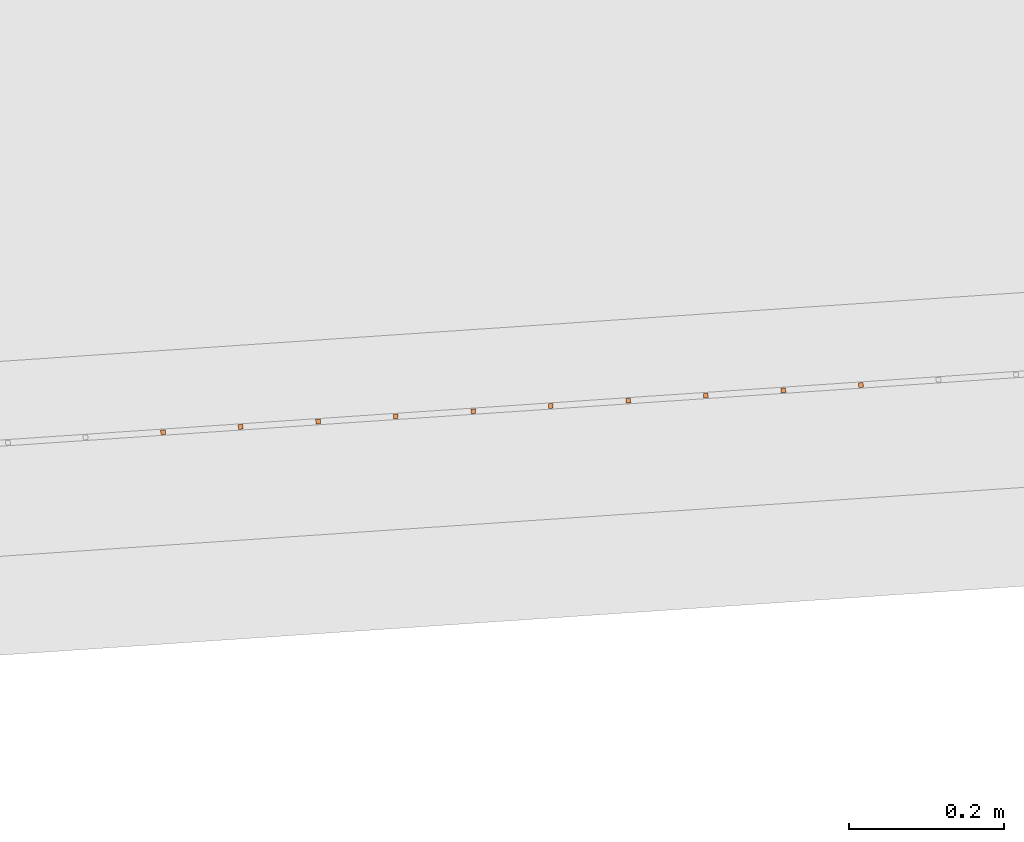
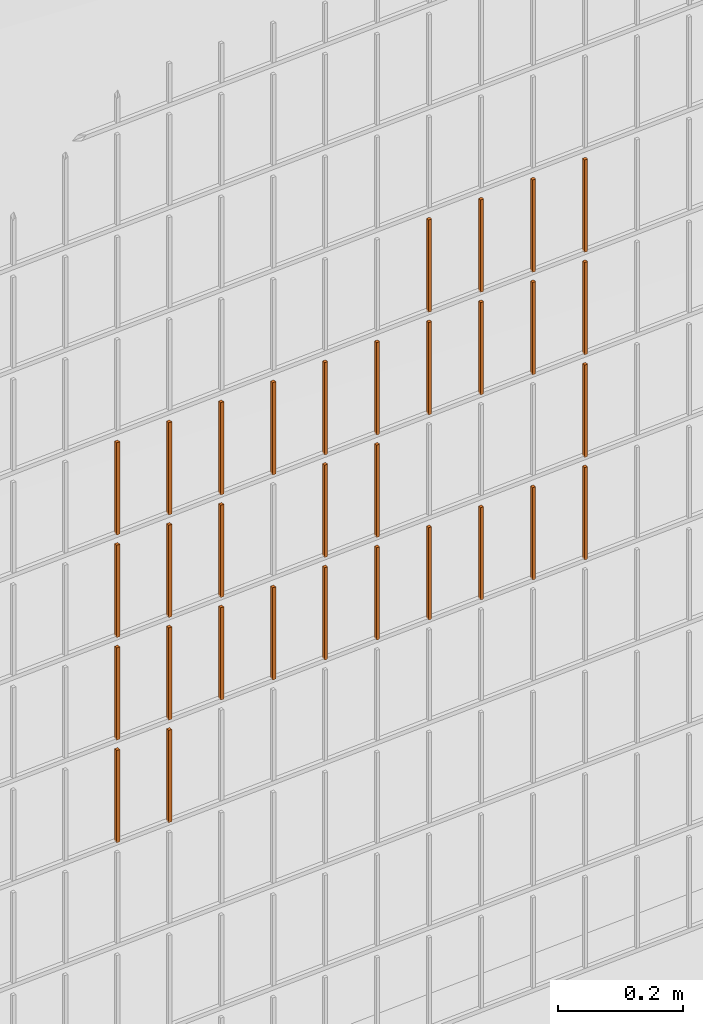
# One storey, part 347 of 1809: 32 proxies, 1 element without a shape of its own.
"""IFC2X3 building model written with IfcOpenShell, lengths in millimetres."""

import ifcopenshell
import ifcopenshell.guid

model = None  # the IFC model being written
_history = None  # IfcOwnerHistory: only IFC2X3 demands one
_inside = {}  # id of a spatial element -> (the spatial element, [elements in it])
_under = {}  # id of a project, library or spatial element -> (it, [spatial elements below it])
_declared = {}  # id of a project -> (the project, [libraries it declares])
_typed = {}  # id of a type object -> (the type object, [elements of that type])
_made_of = {}  # id of a material, layer set ... -> (it, [elements and type objects made of it])


def new_model(schema):
    """Start an empty IFC model of exactly this schema.

    Asked for "IFC4X3", IfcOpenShell would pick the latest addendum, in which some entities
    have other attributes; the version numbers below select the first issue.
    IFC2X3 requires an IfcOwnerHistory on every rooted entity: one is made here for all.
    """
    global model, _history
    if schema == "IFC4X3":
        model = ifcopenshell.file(schema_version=(4, 3, 0, 0))
    else:
        model = ifcopenshell.file(schema=schema)
    _inside.clear()
    _under.clear()
    _declared.clear()
    _typed.clear()
    _made_of.clear()
    _history = None
    if model.schema == "IFC2X3":
        org = make("IfcOrganization", Name="unknown")
        user = make(
            "IfcPersonAndOrganization",
            ThePerson=make("IfcPerson", FamilyName="unknown"),
            TheOrganization=org,
        )
        app = make(
            "IfcApplication",
            ApplicationDeveloper=org,
            Version="unknown",
            ApplicationFullName="unknown",
            ApplicationIdentifier="unknown",
        )
        _history = make(
            "IfcOwnerHistory",
            OwningUser=user,
            OwningApplication=app,
            ChangeAction="ADDED",
            CreationDate=0,
        )
    return model


def make(cls, **values):
    """One entity of the class cls with the attributes given. An attribute that is None is left unset."""
    return model.create_entity(
        cls, **{name: value for name, value in values.items() if value is not None}
    )


def entity(cls, *values):
    """Any entity or typed value of the class cls, its attributes in the order of the schema. None: left unset."""
    e = model.create_entity(cls)
    for i, value in enumerate(values):
        if value is not None:
            e[i] = value
    return e


def rooted(cls, **values):
    """An entity with a GlobalId (a new one), such as an element, a storey or a relation."""
    return make(cls, GlobalId=ifcopenshell.guid.new(), OwnerHistory=_history, **values)


def si_unit(unit_type, name, prefix=None):
    """IfcSIUnit, for example si_unit("LENGTHUNIT", "METRE", prefix="MILLI")."""
    return make("IfcSIUnit", UnitType=unit_type, Prefix=prefix, Name=name)


def converted_unit(unit_type, name, factor, base, dimensions=None, offset=None):
    """IfcConversionBasedUnit, such as the inch: factor (a typed value) times the base unit."""
    return make(
        "IfcConversionBasedUnit"
        if offset is None
        else "IfcConversionBasedUnitWithOffset",
        ConversionOffset=offset,
        Dimensions=None
        if dimensions is None
        else entity("IfcDimensionalExponents", *dimensions),
        UnitType=unit_type,
        Name=name,
        ConversionFactor=make(
            "IfcMeasureWithUnit", ValueComponent=factor, UnitComponent=base
        ),
    )


def derived_unit(unit_type, elements):
    """IfcDerivedUnit: a product of units, each with its exponent."""
    return make(
        "IfcDerivedUnit",
        Elements=[
            make("IfcDerivedUnitElement", Unit=unit, Exponent=power)
            for unit, power in elements
        ],
        UnitType=unit_type,
    )


def money_unit(currency):
    """IfcMonetaryUnit."""
    return make("IfcMonetaryUnit", Currency=currency)


def assignment(units):
    """IfcUnitAssignment: the units of a project."""
    return None if units is None else make("IfcUnitAssignment", Units=units)


def point(xyz):
    """IfcCartesianPoint."""
    return None if xyz is None else make("IfcCartesianPoint", Coordinates=xyz)


def direction(xyz):
    """IfcDirection."""
    return None if xyz is None else make("IfcDirection", DirectionRatios=xyz)


def frame(location, z_axis=None, x_axis=None):
    """IfcAxis2Placement3D, a coordinate frame: its origin and axes. An axis left out is left unset."""
    return make(
        "IfcAxis2Placement3D",
        Location=point(location),
        Axis=direction(z_axis),
        RefDirection=direction(x_axis),
    )


def origin_with_axes():
    """The frame at (0, 0, 0) with the z axis (0, 0, 1) and the x axis (1, 0, 0) written out."""
    return frame((0.0, 0.0, 0.0), z_axis=(0.0, 0.0, 1.0), x_axis=(1.0, 0.0, 0.0))


def place(relative_to, where):
    """IfcLocalPlacement: puts the frame where relative to a parent placement (None: the world)."""
    return make(
        "IfcLocalPlacement", PlacementRelTo=relative_to, RelativePlacement=where
    )


def context(
    kind, dimensions, precision=None, world=None, true_north=None, identifier=None
):
    """IfcGeometricRepresentationContext, for example the 3D "Model" context."""
    return make(
        "IfcGeometricRepresentationContext",
        ContextIdentifier=identifier,
        ContextType=kind,
        CoordinateSpaceDimension=dimensions,
        Precision=precision,
        WorldCoordinateSystem=world,
        TrueNorth=true_north,
    )


def subcontext(parent, identifier, kind, view, scale=None):
    """IfcGeometricRepresentationSubContext, for example "Body" below "Model"."""
    return make(
        "IfcGeometricRepresentationSubContext",
        ContextIdentifier=identifier,
        ContextType=kind,
        ParentContext=parent,
        TargetScale=scale,
        TargetView=view,
    )


def project(units=None, contexts=None):
    """IfcProject with its units and contexts."""
    return rooted(
        "IfcProject",
        Name="project",
        RepresentationContexts=contexts,
        UnitsInContext=assignment(units),
    )


def spatial(cls, under=None, at=None, **own):
    """A site, building, storey or space (cls), placed at a placement, below another one or the project."""
    s = rooted(cls, ObjectPlacement=at, **own)
    if under is not None:
        _under.setdefault(under.id(), (under, []))[1].append(s)
    return s


def faces_of(points, faces, orient=None, outer=None):
    """IfcFace entities. A face is a list of loops; a loop is a list of indices into points, from 0.

    orient and outer hold one flag for each loop. By default every Orientation is true, the
    first loop of a face is its IfcFaceOuterBound and the others are IfcFaceBound.
    """
    made = []
    for i, loops in enumerate(faces):
        bounds = []
        for j, loop in enumerate(loops):
            is_outer = j == 0 if outer is None else outer[i][j]
            bounds.append(
                make(
                    "IfcFaceOuterBound" if is_outer else "IfcFaceBound",
                    Bound=make("IfcPolyLoop", Polygon=[points[k] for k in loop]),
                    Orientation=True if orient is None else orient[i][j],
                )
            )
        made.append(make("IfcFace", Bounds=bounds))
    return made


def faceted_brep(points, faces, orient=None, outer=None, voids=None):
    """IfcFacetedBrep: a solid bounded by flat faces; with voids (closed shells), ...WithVoids."""
    shared = [point(p) for p in points]
    hull = make("IfcClosedShell", CfsFaces=faces_of(shared, faces, orient, outer))
    if voids is None:
        return make("IfcFacetedBrep", Outer=hull)
    return make(
        "IfcFacetedBrepWithVoids",
        Outer=hull,
        Voids=[
            make(cls, CfsFaces=faces_of(shared, fs, o, b)) for cls, fs, o, b in voids
        ],
    )


def shape(context_of_items, identifier, shape_type, items):
    """IfcShapeRepresentation: the items that make up one representation, for example the "Body"."""
    return make(
        "IfcShapeRepresentation",
        ContextOfItems=context_of_items,
        RepresentationIdentifier=identifier,
        RepresentationType=shape_type,
        Items=items,
    )


def source(mapping_origin, context_of_items, identifier, shape_type, items):
    """IfcRepresentationMap: a shape defined once, which mapped items show again and again."""
    return make(
        "IfcRepresentationMap",
        MappingOrigin=mapping_origin,
        MappedRepresentation=shape(context_of_items, identifier, shape_type, items),
    )


def transform(
    local_origin,
    x_axis=None,
    y_axis=None,
    z_axis=None,
    scale=None,
    scale2=None,
    scale3=None,
    uniform=True,
):
    """IfcCartesianTransformationOperator3D, or its non-uniform kind. x_axis, y_axis, z_axis: its Axis1, 2, 3."""
    if uniform:
        return make(
            "IfcCartesianTransformationOperator3D",
            Axis1=direction(x_axis),
            Axis2=direction(y_axis),
            LocalOrigin=point(local_origin),
            Scale=scale,
            Axis3=direction(z_axis),
        )
    return make(
        "IfcCartesianTransformationOperator3DnonUniform",
        Axis1=direction(x_axis),
        Axis2=direction(y_axis),
        LocalOrigin=point(local_origin),
        Scale=scale,
        Axis3=direction(z_axis),
        Scale2=scale2,
        Scale3=scale3,
    )


def mapped(mapping_source, mapping_target):
    """IfcMappedItem: shows the shape of a source again, moved by a transform."""
    return make(
        "IfcMappedItem", MappingSource=mapping_source, MappingTarget=mapping_target
    )


def material(Name=None, Category=None):
    """IfcMaterial."""
    return make("IfcMaterial", Name=Name, Category=Category)


def made_of(thing, what):
    """Note that an element or type object is made of a material, layer set ...; save() writes the relation."""
    if what is not None:
        _made_of.setdefault(what.id(), (what, []))[1].append(thing)
    return thing


def type_object(cls, material=None, **own):
    """A type object (cls), such as IfcWallType, which elements share."""
    return made_of(rooted(cls, **own), material)


def element(
    cls,
    number,
    at=None,
    inside=None,
    cuts=None,
    type_object=None,
    material=None,
    context=None,
    identifier="Body",
    shape_type=None,
    held_by="IfcProductDefinitionShape",
    body=None,
    shapes=None,
    **own,
):
    """One element of the class cls, such as IfcWall. Its Tag is "e" and its number.

    at: its placement. inside: the storey or other place that contains it. cuts: it is an
    opening in that element (IfcRelVoidsElement). A single representation is given by context,
    identifier, shape_type and body (its items); several are given by shapes. held_by: the class
    of the entity that holds the representations. save() writes the other relations.
    """
    e = rooted(cls, Tag="e%d" % number, ObjectPlacement=at, **own)
    if body is not None:
        shapes = [shape(context, identifier, shape_type, body)]
    if shapes is not None:
        e.Representation = make(held_by, Representations=shapes)
    if inside is not None:
        _inside.setdefault(inside.id(), (inside, []))[1].append(e)
    if cuts is not None:
        rooted(
            "IfcRelVoidsElement", RelatingBuildingElement=cuts, RelatedOpeningElement=e
        )
    if type_object is not None:
        _typed.setdefault(type_object.id(), (type_object, []))[1].append(e)
    return made_of(e, material)


def aggregate(whole, parts):
    """IfcRelAggregates: a whole, such as a stair, and the parts it consists of."""
    return rooted("IfcRelAggregates", RelatingObject=whole, RelatedObjects=parts)


def save(model, path):
    """Write the relations noted so far, then the file.

    IfcRelAggregates (storeys below a building ...), IfcRelContainedInSpatialStructure (elements
    in a storey), IfcRelDefinesByType, IfcRelAssociatesMaterial and IfcRelDeclares: one each for
    every whole, place, type object, material and project.
    """
    for whole, parts in _under.values():
        aggregate(whole, parts)
    for where, things in _inside.values():
        rooted(
            "IfcRelContainedInSpatialStructure",
            RelatedElements=things,
            RelatingStructure=where,
        )
    for kind, things in _typed.values():
        rooted("IfcRelDefinesByType", RelatedObjects=things, RelatingType=kind)
    for what, things in _made_of.values():
        rooted("IfcRelAssociatesMaterial", RelatedObjects=things, RelatingMaterial=what)
    for by, libraries in _declared.values():
        rooted("IfcRelDeclares", RelatingContext=by, RelatedDefinitions=libraries)
    model.write(path)


model = new_model("IFC2X3")

# Units and contexts
model_context = context("Model", 3, precision=0.01, world=origin_with_axes(), true_north=direction((0.0, 1.0)))
body_context = subcontext(model_context, "Body", "Model", "MODEL_VIEW")
ifc_project = project(units=[si_unit("LENGTHUNIT", "METRE", prefix="MILLI"), si_unit("AREAUNIT", "SQUARE_METRE"), si_unit("VOLUMEUNIT", "CUBIC_METRE"), converted_unit("PLANEANGLEUNIT", "DEGREE", entity("IfcPlaneAngleMeasure", 0.0174532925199), si_unit("PLANEANGLEUNIT", "RADIAN"), dimensions=[0, 0, 0, 0, 0, 0, 0]), si_unit("SOLIDANGLEUNIT", "STERADIAN"), money_unit("EUR"), converted_unit("TIMEUNIT", "Year", entity("IfcTimeMeasure", 31556926.0), si_unit("TIMEUNIT", "SECOND"), dimensions=[0, 0, 1, 0, 0, 0, 0]), si_unit("MASSUNIT", "GRAM", prefix="KILO"), si_unit("THERMODYNAMICTEMPERATUREUNIT", "DEGREE_CELSIUS"), si_unit("LUMINOUSINTENSITYUNIT", "LUMEN"), si_unit("ENERGYUNIT", "JOULE", prefix="MEGA"), derived_unit("THERMALCONDUCTANCEUNIT", [(si_unit("POWERUNIT", "WATT"), 1), (si_unit("LENGTHUNIT", "METRE"), -1), (si_unit("THERMODYNAMICTEMPERATUREUNIT", "KELVIN"), -1)]), derived_unit("SPECIFICHEATCAPACITYUNIT", [(si_unit("ENERGYUNIT", "JOULE"), 1), (si_unit("MASSUNIT", "GRAM", prefix="KILO"), -1), (si_unit("THERMODYNAMICTEMPERATUREUNIT", "KELVIN"), -1)]), derived_unit("MASSDENSITYUNIT", [(si_unit("MASSUNIT", "GRAM", prefix="KILO"), 1), (si_unit("VOLUMEUNIT", "CUBIC_METRE"), -1)])], contexts=[model_context])

# Site, building, storey
site_placement = place(None, origin_with_axes())
site = spatial("IfcSite", under=ifc_project, at=site_placement, Name="Politse- ja Piirivalveameti ning Päästeameti ühishoone", CompositionType="ELEMENT")
building_placement = place(site_placement, origin_with_axes())
building = spatial("IfcBuilding", under=site, at=building_placement, Name="Politse- ja Piirivalveameti ning Päästeameti ühishoone", CompositionType="ELEMENT")
storey_placement = place(building_placement, origin_with_axes())
storey = spatial("IfcBuildingStorey", under=building, at=storey_placement, Name="Esimene korrus", CompositionType="ELEMENT", Elevation=0.0)

# Proxies
building_element_proxy_type_1 = type_object("IfcBuildingElementProxyType", Name="Railing Type", PredefinedType="NOTDEFINED")
proxy_1_placement = place(storey_placement, frame((89252.001212, -29183.4766571, 203.661247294), z_axis=(0.0, 0.0, 1.0), x_axis=(1.0, 0.0, 0.0)))
proxy_1 = element("IfcBuildingElementProxy", 1, at=proxy_1_placement, inside=storey, type_object=building_element_proxy_type_1, Name="PIIRDEAED")
ifc_material = material(Name="ET-03_Raud")
building_element_proxy_type_2 = type_object("IfcBuildingElementProxyType", Name="IfcBuildingElementProxy", PredefinedType="NOTDEFINED")
shared_shape_1 = source(origin_with_axes(), body_context, "Body", "Brep", [
    faceted_brep([(3.0, 3.0, -0.000752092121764), (-3.0, 3.0, -0.000752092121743), (-3.0, 3.0, 179.99926046), (3.0, 3.0, 179.99926046), (3.0, -3.0, 0.000752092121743), (-3.0, -3.0, 0.000752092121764), (-3.0, -3.0, 180.000764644), (3.0, -3.0, 180.000764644)], [[[0, 1, 2, 3]], [[0, 4, 5, 1]], [[1, 5, 6, 2]], [[3, 2, 6, 7]], [[4, 0, 3, 7]], [[5, 4, 7, 6]]]),
])
proxy_2_placement = place(proxy_1_placement, frame((-28262.2881008, -19206.7856648, 820.132959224), z_axis=(0.0, 0.0, 1.0), x_axis=(1.0, 0.0, 0.0)))
proxy_2 = element("IfcBuildingElementProxy", 2, at=proxy_2_placement, type_object=building_element_proxy_type_2, material=ifc_material, Name="BALUSTER - 001", context=body_context, shape_type="MappedRepresentation", body=[
    mapped(shared_shape_1, transform((0.0, 0.0, 0.0), x_axis=(-0.0673926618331, 0.997726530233, 0.0), y_axis=(-0.997726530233, -0.0673926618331, 0.0), z_axis=(0.0, 0.0, 1.0))),
])
proxy_3_placement = place(proxy_1_placement, frame((-28262.2881008, -19206.7856648, 1220.13295922), z_axis=(0.0, 0.0, 1.0), x_axis=(1.0, 0.0, 0.0)))
proxy_3 = element("IfcBuildingElementProxy", 3, at=proxy_3_placement, type_object=building_element_proxy_type_2, material=ifc_material, Name="BALUSTER - 001", context=body_context, shape_type="MappedRepresentation", body=[
    mapped(shared_shape_1, transform((0.0, 0.0, 0.0), x_axis=(-0.0673926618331, 0.997726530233, 0.0), y_axis=(-0.997726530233, -0.0673926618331, 0.0), z_axis=(0.0, 0.0, 1.0))),
])
shared_shape_2 = source(origin_with_axes(), body_context, "Body", "Brep", [
    faceted_brep([(3.0, 3.0, -0.000752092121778), (-3.0, 3.0, -0.000752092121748), (-3.00000000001, 2.99999999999, 179.99926046), (2.99999999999, 2.99999999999, 179.99926046), (3.0, -3.0, 0.000752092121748), (-3.0, -3.0, 0.000752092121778), (-3.00000000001, -3.00000000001, 180.000764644), (2.99999999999, -3.00000000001, 180.000764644)], [[[0, 1, 2, 3]], [[0, 4, 5, 1]], [[1, 5, 6, 2]], [[3, 2, 6, 7]], [[4, 0, 3, 7]], [[5, 4, 7, 6]]]),
])
proxy_4_placement = place(proxy_1_placement, frame((-28761.1513659, -19240.4819957, 1020.00761054), z_axis=(0.0, 0.0, 1.0), x_axis=(1.0, 0.0, 0.0)))
proxy_4 = element("IfcBuildingElementProxy", 4, at=proxy_4_placement, type_object=building_element_proxy_type_2, material=ifc_material, Name="BALUSTER - 001", context=body_context, shape_type="MappedRepresentation", body=[
    mapped(shared_shape_2, transform((0.0, 0.0, 0.0), x_axis=(-0.0673926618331, 0.997726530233, 0.0), y_axis=(-0.997726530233, -0.0673926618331, 0.0), z_axis=(0.0, 0.0, 1.0))),
])
shared_shape_3 = source(origin_with_axes(), body_context, "Body", "Brep", [
    faceted_brep([(3.0, 3.0, -0.000752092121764), (-3.0, 3.0, -0.000752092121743), (-3.0, 3.0, 179.99926046), (3.0, 3.0, 179.99926046), (3.0, -3.0, 0.000752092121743), (-3.0, -3.0, 0.000752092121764), (-3.0, -3.0, 180.000764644), (3.0, -3.0, 180.000764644)], [[[0, 1, 2, 3]], [[0, 4, 5, 1]], [[1, 5, 6, 2]], [[3, 2, 6, 7]], [[4, 0, 3, 7]], [[5, 4, 7, 6]]]),
])
proxy_5_placement = place(proxy_1_placement, frame((-28262.2881008, -19206.7856648, 1420.13295922), z_axis=(0.0, 0.0, 1.0), x_axis=(1.0, 0.0, 0.0)))
proxy_5 = element("IfcBuildingElementProxy", 5, at=proxy_5_placement, type_object=building_element_proxy_type_2, material=ifc_material, Name="BALUSTER - 001", context=body_context, shape_type="MappedRepresentation", body=[
    mapped(shared_shape_3, transform((0.0, 0.0, 0.0), x_axis=(-0.0673926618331, 0.997726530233, 0.0), y_axis=(-0.997726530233, -0.0673926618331, 0.0), z_axis=(0.0, 0.0, 1.0))),
])
shared_shape_4 = source(origin_with_axes(), body_context, "Body", "Brep", [
    faceted_brep([(3.0, 3.0, -0.000752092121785), (-3.0, 3.0, -0.000752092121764), (-3.0, 3.0, 179.99926046), (3.0, 3.0, 179.99926046), (3.0, -3.0, 0.000752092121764), (-3.0, -3.0, 0.000752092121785), (-3.0, -3.0, 180.000764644), (3.0, -3.0, 180.000764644)], [[[0, 1, 2, 3]], [[0, 4, 5, 1]], [[1, 5, 6, 2]], [[3, 2, 6, 7]], [[4, 0, 3, 7]], [[5, 4, 7, 6]]]),
])
proxy_6_placement = place(proxy_1_placement, frame((-28860.9240189, -19247.2212619, 819.9825408), z_axis=(0.0, 0.0, 1.0), x_axis=(1.0, 0.0, 0.0)))
proxy_6 = element("IfcBuildingElementProxy", 6, at=proxy_6_placement, type_object=building_element_proxy_type_2, material=ifc_material, Name="BALUSTER - 001", context=body_context, shape_type="MappedRepresentation", body=[
    mapped(shared_shape_4, transform((0.0, 0.0, 0.0), x_axis=(-0.0673926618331, 0.997726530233, 0.0), y_axis=(-0.997726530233, -0.0673926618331, 0.0), z_axis=(0.0, 0.0, 1.0))),
])
shared_shape_5 = source(origin_with_axes(), body_context, "Body", "Brep", [
    faceted_brep([(3.0, 3.0, -0.000752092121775), (-3.0, 3.0, -0.000752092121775), (-3.0, 3.0, 179.99926046), (3.0, 3.0, 179.99926046), (3.0, -3.0, 0.000752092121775), (-3.0, -3.0, 0.000752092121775), (-3.0, -3.0, 180.000764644), (3.0, -3.0, 180.000764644)], [[[0, 1, 2, 3]], [[0, 4, 5, 1]], [[1, 5, 6, 2]], [[3, 2, 6, 7]], [[4, 0, 3, 7]], [[5, 4, 7, 6]]]),
])
proxy_7_placement = place(proxy_1_placement, frame((-28761.1513659, -19240.4819957, 820.007610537), z_axis=(0.0, 0.0, 1.0), x_axis=(1.0, 0.0, 0.0)))
proxy_7 = element("IfcBuildingElementProxy", 7, at=proxy_7_placement, type_object=building_element_proxy_type_2, material=ifc_material, Name="BALUSTER - 001", context=body_context, shape_type="MappedRepresentation", body=[
    mapped(shared_shape_5, transform((0.0, 0.0, 0.0), x_axis=(-0.0673926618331, 0.997726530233, 0.0), y_axis=(-0.997726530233, -0.0673926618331, 0.0), z_axis=(0.0, 0.0, 1.0))),
])
shared_shape_6 = source(origin_with_axes(), body_context, "Body", "Brep", [
    faceted_brep([(3.0, 3.0, -0.000752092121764), (-3.0, 3.0, -0.000752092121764), (-3.0, 3.0, 179.99926046), (3.0, 3.0, 179.99926046), (3.0, -3.0, 0.000752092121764), (-3.0, -3.0, 0.000752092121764), (-3.0, -3.0, 180.000764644), (3.0, -3.0, 180.000764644)], [[[0, 1, 2, 3]], [[0, 4, 5, 1]], [[1, 5, 6, 2]], [[3, 2, 6, 7]], [[4, 0, 3, 7]], [[5, 4, 7, 6]]]),
])
proxy_8_placement = place(proxy_1_placement, frame((-28860.9240189, -19247.2212619, 1219.9825408), z_axis=(0.0, 0.0, 1.0), x_axis=(1.0, 0.0, 0.0)))
proxy_8 = element("IfcBuildingElementProxy", 8, at=proxy_8_placement, type_object=building_element_proxy_type_2, material=ifc_material, Name="BALUSTER - 001", context=body_context, shape_type="MappedRepresentation", body=[
    mapped(shared_shape_6, transform((0.0, 0.0, 0.0), x_axis=(-0.0673926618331, 0.997726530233, 0.0), y_axis=(-0.997726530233, -0.0673926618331, 0.0), z_axis=(0.0, 0.0, 1.0))),
])
shared_shape_7 = source(origin_with_axes(), body_context, "Body", "Brep", [
    faceted_brep([(3.0, 3.0, -0.000752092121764), (-3.0, 3.0, -0.000752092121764), (-3.0, 3.0, 179.99926046), (3.0, 3.0, 179.99926046), (3.0, -3.0, 0.000752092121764), (-3.0, -3.0, 0.000752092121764), (-3.0, -3.0, 180.000764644), (3.0, -3.0, 180.000764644)], [[[0, 1, 2, 3]], [[0, 4, 5, 1]], [[1, 5, 6, 2]], [[3, 2, 6, 7]], [[4, 0, 3, 7]], [[5, 4, 7, 6]]]),
])
proxy_9_placement = place(proxy_1_placement, frame((-28362.0607538, -19213.524931, 1420.10788949), z_axis=(0.0, 0.0, 1.0), x_axis=(1.0, 0.0, 0.0)))
proxy_9 = element("IfcBuildingElementProxy", 9, at=proxy_9_placement, type_object=building_element_proxy_type_2, material=ifc_material, Name="BALUSTER - 001", context=body_context, shape_type="MappedRepresentation", body=[
    mapped(shared_shape_7, transform((0.0, 0.0, 0.0), x_axis=(-0.0673926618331, 0.997726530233, 0.0), y_axis=(-0.997726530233, -0.0673926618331, 0.0), z_axis=(0.0, 0.0, 1.0))),
])
shared_shape_8 = source(origin_with_axes(), body_context, "Body", "Brep", [
    faceted_brep([(3.0, 3.0, -0.000752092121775), (-3.0, 3.0, -0.000752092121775), (-3.0, 3.0, 179.99926046), (3.0, 3.0, 179.99926046), (3.0, -3.0, 0.000752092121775), (-3.0, -3.0, 0.000752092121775), (-3.0, -3.0, 180.000764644), (3.0, -3.0, 180.000764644)], [[[0, 1, 2, 3]], [[0, 4, 5, 1]], [[1, 5, 6, 2]], [[3, 2, 6, 7]], [[4, 0, 3, 7]], [[5, 4, 7, 6]]]),
])
proxy_10_placement = place(proxy_1_placement, frame((-28561.6060598, -19227.0034633, 1420.05775001), z_axis=(0.0, 0.0, 1.0), x_axis=(1.0, 0.0, 0.0)))
proxy_10 = element("IfcBuildingElementProxy", 10, at=proxy_10_placement, type_object=building_element_proxy_type_2, material=ifc_material, Name="BALUSTER - 001", context=body_context, shape_type="MappedRepresentation", body=[
    mapped(shared_shape_8, transform((0.0, 0.0, 0.0), x_axis=(-0.0673926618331, 0.997726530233, 0.0), y_axis=(-0.997726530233, -0.0673926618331, 0.0), z_axis=(0.0, 0.0, 1.0))),
])
shared_shape_9 = source(origin_with_axes(), body_context, "Body", "Brep", [
    faceted_brep([(3.0, 3.0, -0.000752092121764), (-3.0, 3.0, -0.000752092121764), (-3.0, 3.0, 179.99926046), (3.0, 3.0, 179.99926046), (3.0, -3.0, 0.000752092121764), (-3.0, -3.0, 0.000752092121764), (-3.0, -3.0, 180.000764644), (3.0, -3.0, 180.000764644)], [[[0, 1, 2, 3]], [[0, 4, 5, 1]], [[1, 5, 6, 2]], [[3, 2, 6, 7]], [[4, 0, 3, 7]], [[5, 4, 7, 6]]]),
])
proxy_11_placement = place(proxy_1_placement, frame((-28561.6060598, -19227.0034633, 820.057750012), z_axis=(0.0, 0.0, 1.0), x_axis=(1.0, 0.0, 0.0)))
proxy_11 = element("IfcBuildingElementProxy", 11, at=proxy_11_placement, type_object=building_element_proxy_type_2, material=ifc_material, Name="BALUSTER - 001", context=body_context, shape_type="MappedRepresentation", body=[
    mapped(shared_shape_9, transform((0.0, 0.0, 0.0), x_axis=(-0.0673926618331, 0.997726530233, 0.0), y_axis=(-0.997726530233, -0.0673926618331, 0.0), z_axis=(0.0, 0.0, 1.0))),
])
proxy_12_placement = place(proxy_1_placement, frame((-28362.0607538, -19213.524931, 1220.10788949), z_axis=(0.0, 0.0, 1.0), x_axis=(1.0, 0.0, 0.0)))
proxy_12 = element("IfcBuildingElementProxy", 12, at=proxy_12_placement, type_object=building_element_proxy_type_2, material=ifc_material, Name="BALUSTER - 001", context=body_context, shape_type="MappedRepresentation", body=[
    mapped(shared_shape_9, transform((0.0, 0.0, 0.0), x_axis=(-0.0673926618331, 0.997726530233, 0.0), y_axis=(-0.997726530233, -0.0673926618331, 0.0), z_axis=(0.0, 0.0, 1.0))),
])
shared_shape_10 = source(origin_with_axes(), body_context, "Body", "Brep", [
    faceted_brep([(3.0, 3.0, -0.000752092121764), (-3.0, 3.0, -0.000752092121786), (-3.0, 3.0, 179.99926046), (3.0, 3.0, 179.99926046), (3.0, -3.0, 0.000752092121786), (-3.0, -3.0, 0.000752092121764), (-3.0, -3.0, 180.000764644), (3.0, -3.0, 180.000764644)], [[[0, 1, 2, 3]], [[0, 4, 5, 1]], [[1, 5, 6, 2]], [[3, 2, 6, 7]], [[4, 0, 3, 7]], [[5, 4, 7, 6]]]),
])
proxy_13_placement = place(proxy_1_placement, frame((-28661.3787129, -19233.7427295, 1220.03268027), z_axis=(0.0, 0.0, 1.0), x_axis=(1.0, 0.0, 0.0)))
proxy_13 = element("IfcBuildingElementProxy", 13, at=proxy_13_placement, type_object=building_element_proxy_type_2, material=ifc_material, Name="BALUSTER - 001", context=body_context, shape_type="MappedRepresentation", body=[
    mapped(shared_shape_10, transform((0.0, 0.0, 0.0), x_axis=(-0.0673926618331, 0.997726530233, 0.0), y_axis=(-0.997726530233, -0.0673926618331, 0.0), z_axis=(0.0, 0.0, 1.0))),
])
shared_shape_11 = source(origin_with_axes(), body_context, "Body", "Brep", [
    faceted_brep([(3.0, 3.0, -0.000752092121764), (-3.0, 3.0, -0.000752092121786), (-3.0, 3.0, 179.99926046), (3.0, 3.0, 179.99926046), (3.0, -3.0, 0.000752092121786), (-3.0, -3.0, 0.000752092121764), (-3.0, -3.0, 180.000764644), (3.0, -3.0, 180.000764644)], [[[0, 1, 2, 3]], [[0, 4, 5, 1]], [[1, 5, 6, 2]], [[3, 2, 6, 7]], [[4, 0, 3, 7]], [[5, 4, 7, 6]]]),
])
proxy_14_placement = place(proxy_1_placement, frame((-28661.3787129, -19233.7427295, 820.032680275), z_axis=(0.0, 0.0, 1.0), x_axis=(1.0, 0.0, 0.0)))
proxy_14 = element("IfcBuildingElementProxy", 14, at=proxy_14_placement, type_object=building_element_proxy_type_2, material=ifc_material, Name="BALUSTER - 001", context=body_context, shape_type="MappedRepresentation", body=[
    mapped(shared_shape_11, transform((0.0, 0.0, 0.0), x_axis=(-0.0673926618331, 0.997726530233, 0.0), y_axis=(-0.997726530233, -0.0673926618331, 0.0), z_axis=(0.0, 0.0, 1.0))),
])
shared_shape_12 = source(origin_with_axes(), body_context, "Body", "Brep", [
    faceted_brep([(3.0, 3.0, -0.000752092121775), (-3.0, 3.0, -0.000752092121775), (-3.0, 3.0, 179.99926046), (3.0, 3.0, 179.99926046), (3.0, -3.0, 0.000752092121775), (-3.0, -3.0, 0.000752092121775), (-3.0, -3.0, 180.000764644), (3.0, -3.0, 180.000764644)], [[[0, 1, 2, 3]], [[0, 4, 5, 1]], [[1, 5, 6, 2]], [[3, 2, 6, 7]], [[4, 0, 3, 7]], [[5, 4, 7, 6]]]),
])
proxy_15_placement = place(proxy_1_placement, frame((-28561.6060598, -19227.0034633, 1220.05775001), z_axis=(0.0, 0.0, 1.0), x_axis=(1.0, 0.0, 0.0)))
proxy_15 = element("IfcBuildingElementProxy", 15, at=proxy_15_placement, type_object=building_element_proxy_type_2, material=ifc_material, Name="BALUSTER - 001", context=body_context, shape_type="MappedRepresentation", body=[
    mapped(shared_shape_12, transform((0.0, 0.0, 0.0), x_axis=(-0.0673926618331, 0.997726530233, 0.0), y_axis=(-0.997726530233, -0.0673926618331, 0.0), z_axis=(0.0, 0.0, 1.0))),
])
shared_shape_13 = source(origin_with_axes(), body_context, "Body", "Brep", [
    faceted_brep([(3.0, 3.0, -0.000752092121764), (-3.0, 3.0, -0.000752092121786), (-3.0, 3.0, 179.99926046), (3.0, 3.0, 179.99926046), (3.0, -3.0, 0.000752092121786), (-3.0, -3.0, 0.000752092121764), (-3.0, -3.0, 180.000764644), (3.0, -3.0, 180.000764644)], [[[0, 1, 2, 3]], [[0, 4, 5, 1]], [[1, 5, 6, 2]], [[3, 2, 6, 7]], [[4, 0, 3, 7]], [[5, 4, 7, 6]]]),
])
proxy_16_placement = place(proxy_1_placement, frame((-28761.1513659, -19240.4819957, 1220.00761054), z_axis=(0.0, 0.0, 1.0), x_axis=(1.0, 0.0, 0.0)))
proxy_16 = element("IfcBuildingElementProxy", 16, at=proxy_16_placement, type_object=building_element_proxy_type_2, material=ifc_material, Name="BALUSTER - 001", context=body_context, shape_type="MappedRepresentation", body=[
    mapped(shared_shape_13, transform((0.0, 0.0, 0.0), x_axis=(-0.0673926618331, 0.997726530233, 0.0), y_axis=(-0.997726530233, -0.0673926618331, 0.0), z_axis=(0.0, 0.0, 1.0))),
])
shared_shape_14 = source(origin_with_axes(), body_context, "Body", "Brep", [
    faceted_brep([(3.0, 3.0, -0.000752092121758), (-3.0, 3.0, -0.00075209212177), (-3.00000000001, 3.0, 179.99926046), (2.99999999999, 3.0, 179.99926046), (3.0, -3.0, 0.00075209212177), (-3.0, -3.0, 0.000752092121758), (-3.00000000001, -3.0, 180.000764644), (2.99999999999, -3.0, 180.000764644)], [[[0, 1, 2, 3]], [[0, 4, 5, 1]], [[1, 5, 6, 2]], [[3, 2, 6, 7]], [[4, 0, 3, 7]], [[5, 4, 7, 6]]]),
])
proxy_17_placement = place(proxy_1_placement, frame((-28661.3787129, -19233.7427295, 1020.03268027), z_axis=(0.0, 0.0, 1.0), x_axis=(1.0, 0.0, 0.0)))
proxy_17 = element("IfcBuildingElementProxy", 17, at=proxy_17_placement, type_object=building_element_proxy_type_2, material=ifc_material, Name="BALUSTER - 001", context=body_context, shape_type="MappedRepresentation", body=[
    mapped(shared_shape_14, transform((0.0, 0.0, 0.0), x_axis=(-0.0673926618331, 0.997726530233, 0.0), y_axis=(-0.997726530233, -0.0673926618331, 0.0), z_axis=(0.0, 0.0, 1.0))),
])
shared_shape_15 = source(origin_with_axes(), body_context, "Body", "Brep", [
    faceted_brep([(3.0, 3.0, -0.000752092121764), (-3.0, 3.0, -0.000752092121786), (-3.0, 3.0, 179.99926046), (3.0, 3.0, 179.99926046), (3.0, -3.0, 0.000752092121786), (-3.0, -3.0, 0.000752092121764), (-3.0, -3.0, 180.000764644), (3.0, -3.0, 180.000764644)], [[[0, 1, 2, 3]], [[0, 4, 5, 1]], [[1, 5, 6, 2]], [[3, 2, 6, 7]], [[4, 0, 3, 7]], [[5, 4, 7, 6]]]),
])
proxy_18_placement = place(proxy_1_placement, frame((-28461.8334068, -19220.2641972, 820.08281975), z_axis=(0.0, 0.0, 1.0), x_axis=(1.0, 0.0, 0.0)))
proxy_18 = element("IfcBuildingElementProxy", 18, at=proxy_18_placement, type_object=building_element_proxy_type_2, material=ifc_material, Name="BALUSTER - 001", context=body_context, shape_type="MappedRepresentation", body=[
    mapped(shared_shape_15, transform((0.0, 0.0, 0.0), x_axis=(-0.0673926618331, 0.997726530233, 0.0), y_axis=(-0.997726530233, -0.0673926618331, 0.0), z_axis=(0.0, 0.0, 1.0))),
])
shared_shape_16 = source(origin_with_axes(), body_context, "Body", "Brep", [
    faceted_brep([(3.0, 3.0, -0.000752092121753), (-3.0, 3.0, -0.000752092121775), (-3.0, 3.0, 179.99926046), (3.0, 3.0, 179.99926046), (3.0, -3.0, 0.000752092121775), (-3.0, -3.0, 0.000752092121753), (-3.0, -3.0, 180.000764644), (3.0, -3.0, 180.000764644)], [[[0, 1, 2, 3]], [[0, 4, 5, 1]], [[1, 5, 6, 2]], [[3, 2, 6, 7]], [[4, 0, 3, 7]], [[5, 4, 7, 6]]]),
])
proxy_19_placement = place(proxy_1_placement, frame((-29160.241978, -19267.4390604, 619.907331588), z_axis=(0.0, 0.0, 1.0), x_axis=(1.0, 0.0, 0.0)))
proxy_19 = element("IfcBuildingElementProxy", 19, at=proxy_19_placement, type_object=building_element_proxy_type_2, material=ifc_material, Name="BALUSTER - 001", context=body_context, shape_type="MappedRepresentation", body=[
    mapped(shared_shape_16, transform((0.0, 0.0, 0.0), x_axis=(-0.0673926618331, 0.997726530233, 0.0), y_axis=(-0.997726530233, -0.0673926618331, 0.0), z_axis=(0.0, 0.0, 1.0))),
])
shared_shape_17 = source(origin_with_axes(), body_context, "Body", "Brep", [
    faceted_brep([(3.0, 3.0, -0.000752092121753), (-3.0, 3.0, -0.000752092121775), (-3.0, 3.0, 179.99926046), (3.0, 3.0, 179.99926046), (3.0, -3.0, 0.000752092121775), (-3.0, -3.0, 0.000752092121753), (-3.0, -3.0, 180.000764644), (3.0, -3.0, 180.000764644)], [[[0, 1, 2, 3]], [[0, 4, 5, 1]], [[1, 5, 6, 2]], [[3, 2, 6, 7]], [[4, 0, 3, 7]], [[5, 4, 7, 6]]]),
])
proxy_20_placement = place(proxy_1_placement, frame((-28362.0607538, -19213.524931, 820.107889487), z_axis=(0.0, 0.0, 1.0), x_axis=(1.0, 0.0, 0.0)))
proxy_20 = element("IfcBuildingElementProxy", 20, at=proxy_20_placement, type_object=building_element_proxy_type_2, material=ifc_material, Name="BALUSTER - 001", context=body_context, shape_type="MappedRepresentation", body=[
    mapped(shared_shape_17, transform((0.0, 0.0, 0.0), x_axis=(-0.0673926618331, 0.997726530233, 0.0), y_axis=(-0.997726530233, -0.0673926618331, 0.0), z_axis=(0.0, 0.0, 1.0))),
])
shared_shape_18 = source(origin_with_axes(), body_context, "Body", "Brep", [
    faceted_brep([(3.0, 3.0, -0.000752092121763), (-3.0, 3.0, -0.000752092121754), (-3.00000000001, 2.99999999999, 179.99926046), (2.99999999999, 2.99999999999, 179.99926046), (3.0, -3.0, 0.000752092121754), (-3.0, -3.0, 0.000752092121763), (-3.00000000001, -3.00000000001, 180.000764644), (2.99999999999, -3.00000000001, 180.000764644)], [[[0, 1, 2, 3]], [[0, 4, 5, 1]], [[1, 5, 6, 2]], [[3, 2, 6, 7]], [[4, 0, 3, 7]], [[5, 4, 7, 6]]]),
])
proxy_21_placement = place(proxy_1_placement, frame((-28960.6966719, -19253.9605281, 1019.95747106), z_axis=(0.0, 0.0, 1.0), x_axis=(1.0, 0.0, 0.0)))
proxy_21 = element("IfcBuildingElementProxy", 21, at=proxy_21_placement, type_object=building_element_proxy_type_2, material=ifc_material, Name="BALUSTER - 001", context=body_context, shape_type="MappedRepresentation", body=[
    mapped(shared_shape_18, transform((0.0, 0.0, 0.0), x_axis=(-0.0673926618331, 0.997726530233, 0.0), y_axis=(-0.997726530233, -0.0673926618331, 0.0), z_axis=(0.0, 0.0, 1.0))),
])
shared_shape_19 = source(origin_with_axes(), body_context, "Body", "Brep", [
    faceted_brep([(3.0, 3.0, -0.000752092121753), (-3.0, 3.0, -0.000752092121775), (-3.0, 3.0, 179.99926046), (3.0, 3.0, 179.99926046), (3.0, -3.0, 0.000752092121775), (-3.0, -3.0, 0.000752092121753), (-3.0, -3.0, 180.000764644), (3.0, -3.0, 180.000764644)], [[[0, 1, 2, 3]], [[0, 4, 5, 1]], [[1, 5, 6, 2]], [[3, 2, 6, 7]], [[4, 0, 3, 7]], [[5, 4, 7, 6]]]),
])
proxy_22_placement = place(proxy_1_placement, frame((-29060.469325, -19260.6997943, 819.932401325), z_axis=(0.0, 0.0, 1.0), x_axis=(1.0, 0.0, 0.0)))
proxy_22 = element("IfcBuildingElementProxy", 22, at=proxy_22_placement, type_object=building_element_proxy_type_2, material=ifc_material, Name="BALUSTER - 001", context=body_context, shape_type="MappedRepresentation", body=[
    mapped(shared_shape_19, transform((0.0, 0.0, 0.0), x_axis=(-0.0673926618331, 0.997726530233, 0.0), y_axis=(-0.997726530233, -0.0673926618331, 0.0), z_axis=(0.0, 0.0, 1.0))),
])
proxy_23_placement = place(proxy_1_placement, frame((-29160.241978, -19267.4390604, 1219.90733159), z_axis=(0.0, 0.0, 1.0), x_axis=(1.0, 0.0, 0.0)))
proxy_23 = element("IfcBuildingElementProxy", 23, at=proxy_23_placement, type_object=building_element_proxy_type_2, material=ifc_material, Name="BALUSTER - 001", context=body_context, shape_type="MappedRepresentation", body=[
    mapped(shared_shape_19, transform((0.0, 0.0, 0.0), x_axis=(-0.0673926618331, 0.997726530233, 0.0), y_axis=(-0.997726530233, -0.0673926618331, 0.0), z_axis=(0.0, 0.0, 1.0))),
])
shared_shape_20 = source(origin_with_axes(), body_context, "Body", "Brep", [
    faceted_brep([(3.0, 3.0, -0.000752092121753), (-3.0, 3.0, -0.000752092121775), (-3.0, 3.0, 179.99926046), (3.0, 3.0, 179.99926046), (3.0, -3.0, 0.000752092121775), (-3.0, -3.0, 0.000752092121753), (-3.0, -3.0, 180.000764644), (3.0, -3.0, 180.000764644)], [[[0, 1, 2, 3]], [[0, 4, 5, 1]], [[1, 5, 6, 2]], [[3, 2, 6, 7]], [[4, 0, 3, 7]], [[5, 4, 7, 6]]]),
])
proxy_24_placement = place(proxy_1_placement, frame((-29060.469325, -19260.6997943, 1219.93240133), z_axis=(0.0, 0.0, 1.0), x_axis=(1.0, 0.0, 0.0)))
proxy_24 = element("IfcBuildingElementProxy", 24, at=proxy_24_placement, type_object=building_element_proxy_type_2, material=ifc_material, Name="BALUSTER - 001", context=body_context, shape_type="MappedRepresentation", body=[
    mapped(shared_shape_20, transform((0.0, 0.0, 0.0), x_axis=(-0.0673926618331, 0.997726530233, 0.0), y_axis=(-0.997726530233, -0.0673926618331, 0.0), z_axis=(0.0, 0.0, 1.0))),
])
shared_shape_21 = source(origin_with_axes(), body_context, "Body", "Brep", [
    faceted_brep([(3.0, 3.0, -0.000752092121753), (-3.0, 3.0, -0.000752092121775), (-3.0, 3.0, 179.99926046), (3.0, 3.0, 179.99926046), (3.0, -3.0, 0.000752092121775), (-3.0, -3.0, 0.000752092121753), (-3.0, -3.0, 180.000764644), (3.0, -3.0, 180.000764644)], [[[0, 1, 2, 3]], [[0, 4, 5, 1]], [[1, 5, 6, 2]], [[3, 2, 6, 7]], [[4, 0, 3, 7]], [[5, 4, 7, 6]]]),
])
proxy_25_placement = place(proxy_1_placement, frame((-28461.8334068, -19220.2641972, 1220.08281975), z_axis=(0.0, 0.0, 1.0), x_axis=(1.0, 0.0, 0.0)))
proxy_25 = element("IfcBuildingElementProxy", 25, at=proxy_25_placement, type_object=building_element_proxy_type_2, material=ifc_material, Name="BALUSTER - 001", context=body_context, shape_type="MappedRepresentation", body=[
    mapped(shared_shape_21, transform((0.0, 0.0, 0.0), x_axis=(-0.0673926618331, 0.997726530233, 0.0), y_axis=(-0.997726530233, -0.0673926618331, 0.0), z_axis=(0.0, 0.0, 1.0))),
])
shared_shape_22 = source(origin_with_axes(), body_context, "Body", "Brep", [
    faceted_brep([(3.0, 3.0, -0.000752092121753), (-3.0, 3.0, -0.000752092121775), (-3.0, 3.0, 179.99926046), (3.0, 3.0, 179.99926046), (3.0, -3.0, 0.000752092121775), (-3.0, -3.0, 0.000752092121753), (-3.0, -3.0, 180.000764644), (3.0, -3.0, 180.000764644)], [[[0, 1, 2, 3]], [[0, 4, 5, 1]], [[1, 5, 6, 2]], [[3, 2, 6, 7]], [[4, 0, 3, 7]], [[5, 4, 7, 6]]]),
])
proxy_26_placement = place(proxy_1_placement, frame((-29160.241978, -19267.4390604, 819.907331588), z_axis=(0.0, 0.0, 1.0), x_axis=(1.0, 0.0, 0.0)))
proxy_26 = element("IfcBuildingElementProxy", 26, at=proxy_26_placement, type_object=building_element_proxy_type_2, material=ifc_material, Name="BALUSTER - 001", context=body_context, shape_type="MappedRepresentation", body=[
    mapped(shared_shape_22, transform((0.0, 0.0, 0.0), x_axis=(-0.0673926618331, 0.997726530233, 0.0), y_axis=(-0.997726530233, -0.0673926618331, 0.0), z_axis=(0.0, 0.0, 1.0))),
])
shared_shape_23 = source(origin_with_axes(), body_context, "Body", "Brep", [
    faceted_brep([(3.0, 3.0, -0.000752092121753), (-3.0, 3.0, -0.000752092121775), (-3.0, 3.0, 179.99926046), (3.0, 3.0, 179.99926046), (3.0, -3.0, 0.000752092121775), (-3.0, -3.0, 0.000752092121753), (-3.0, -3.0, 180.000764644), (3.0, -3.0, 180.000764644)], [[[0, 1, 2, 3]], [[0, 4, 5, 1]], [[1, 5, 6, 2]], [[3, 2, 6, 7]], [[4, 0, 3, 7]], [[5, 4, 7, 6]]]),
])
proxy_27_placement = place(proxy_1_placement, frame((-29060.469325, -19260.6997943, 619.932401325), z_axis=(0.0, 0.0, 1.0), x_axis=(1.0, 0.0, 0.0)))
proxy_27 = element("IfcBuildingElementProxy", 27, at=proxy_27_placement, type_object=building_element_proxy_type_2, material=ifc_material, Name="BALUSTER - 001", context=body_context, shape_type="MappedRepresentation", body=[
    mapped(shared_shape_23, transform((0.0, 0.0, 0.0), x_axis=(-0.0673926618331, 0.997726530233, 0.0), y_axis=(-0.997726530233, -0.0673926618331, 0.0), z_axis=(0.0, 0.0, 1.0))),
])
shared_shape_24 = source(origin_with_axes(), body_context, "Body", "Brep", [
    faceted_brep([(3.0, 3.0, -0.000752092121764), (-3.0, 3.0, -0.000752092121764), (-3.0, 3.0, 179.99926046), (3.0, 3.0, 179.99926046), (3.0, -3.0, 0.000752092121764), (-3.0, -3.0, 0.000752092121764), (-3.0, -3.0, 180.000764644), (3.0, -3.0, 180.000764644)], [[[0, 1, 2, 3]], [[0, 4, 5, 1]], [[1, 5, 6, 2]], [[3, 2, 6, 7]], [[4, 0, 3, 7]], [[5, 4, 7, 6]]]),
])
proxy_28_placement = place(proxy_1_placement, frame((-28960.6966719, -19253.9605281, 819.957471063), z_axis=(0.0, 0.0, 1.0), x_axis=(1.0, 0.0, 0.0)))
proxy_28 = element("IfcBuildingElementProxy", 28, at=proxy_28_placement, type_object=building_element_proxy_type_2, material=ifc_material, Name="BALUSTER - 001", context=body_context, shape_type="MappedRepresentation", body=[
    mapped(shared_shape_24, transform((0.0, 0.0, 0.0), x_axis=(-0.0673926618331, 0.997726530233, 0.0), y_axis=(-0.997726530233, -0.0673926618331, 0.0), z_axis=(0.0, 0.0, 1.0))),
])
proxy_29_placement = place(proxy_1_placement, frame((-28960.6966719, -19253.9605281, 1219.95747106), z_axis=(0.0, 0.0, 1.0), x_axis=(1.0, 0.0, 0.0)))
proxy_29 = element("IfcBuildingElementProxy", 29, at=proxy_29_placement, type_object=building_element_proxy_type_2, material=ifc_material, Name="BALUSTER - 001", context=body_context, shape_type="MappedRepresentation", body=[
    mapped(shared_shape_24, transform((0.0, 0.0, 0.0), x_axis=(-0.0673926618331, 0.997726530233, 0.0), y_axis=(-0.997726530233, -0.0673926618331, 0.0), z_axis=(0.0, 0.0, 1.0))),
])
shared_shape_25 = source(origin_with_axes(), body_context, "Body", "Brep", [
    faceted_brep([(3.0, 3.0, -0.000752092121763), (-3.0, 3.0, -0.000752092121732), (-3.00000000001, 2.99999999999, 179.99926046), (2.99999999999, 2.99999999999, 179.99926046), (3.0, -3.0, 0.000752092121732), (-3.0, -3.0, 0.000752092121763), (-3.00000000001, -3.00000000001, 180.000764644), (2.99999999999, -3.00000000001, 180.000764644)], [[[0, 1, 2, 3]], [[0, 4, 5, 1]], [[1, 5, 6, 2]], [[3, 2, 6, 7]], [[4, 0, 3, 7]], [[5, 4, 7, 6]]]),
])
proxy_30_placement = place(proxy_1_placement, frame((-28262.2881008, -19206.7856648, 1020.13295922), z_axis=(0.0, 0.0, 1.0), x_axis=(1.0, 0.0, 0.0)))
proxy_30 = element("IfcBuildingElementProxy", 30, at=proxy_30_placement, type_object=building_element_proxy_type_2, material=ifc_material, Name="BALUSTER - 001", context=body_context, shape_type="MappedRepresentation", body=[
    mapped(shared_shape_25, transform((0.0, 0.0, 0.0), x_axis=(-0.0673926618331, 0.997726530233, 0.0), y_axis=(-0.997726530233, -0.0673926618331, 0.0), z_axis=(0.0, 0.0, 1.0))),
])
shared_shape_26 = source(origin_with_axes(), body_context, "Body", "Brep", [
    faceted_brep([(3.0, 3.0, -0.000752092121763), (-3.0, 3.0, -0.000752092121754), (-3.00000000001, 2.99999999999, 179.99926046), (2.99999999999, 2.99999999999, 179.99926046), (3.0, -3.0, 0.000752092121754), (-3.0, -3.0, 0.000752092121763), (-3.00000000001, -3.00000000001, 180.000764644), (2.99999999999, -3.00000000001, 180.000764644)], [[[0, 1, 2, 3]], [[0, 4, 5, 1]], [[1, 5, 6, 2]], [[3, 2, 6, 7]], [[4, 0, 3, 7]], [[5, 4, 7, 6]]]),
])
proxy_31_placement = place(proxy_1_placement, frame((-29060.469325, -19260.6997943, 1019.93240133), z_axis=(0.0, 0.0, 1.0), x_axis=(1.0, 0.0, 0.0)))
proxy_31 = element("IfcBuildingElementProxy", 31, at=proxy_31_placement, type_object=building_element_proxy_type_2, material=ifc_material, Name="BALUSTER - 001", context=body_context, shape_type="MappedRepresentation", body=[
    mapped(shared_shape_26, transform((0.0, 0.0, 0.0), x_axis=(-0.0673926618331, 0.997726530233, 0.0), y_axis=(-0.997726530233, -0.0673926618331, 0.0), z_axis=(0.0, 0.0, 1.0))),
])
shared_shape_27 = source(origin_with_axes(), body_context, "Body", "Brep", [
    faceted_brep([(3.0, 3.0, -0.000752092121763), (-3.0, 3.0, -0.000752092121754), (-3.00000000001, 2.99999999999, 179.99926046), (2.99999999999, 2.99999999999, 179.99926046), (3.0, -3.0, 0.000752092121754), (-3.0, -3.0, 0.000752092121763), (-3.00000000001, -3.00000000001, 180.000764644), (2.99999999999, -3.00000000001, 180.000764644)], [[[0, 1, 2, 3]], [[0, 4, 5, 1]], [[1, 5, 6, 2]], [[3, 2, 6, 7]], [[4, 0, 3, 7]], [[5, 4, 7, 6]]]),
])
proxy_32_placement = place(proxy_1_placement, frame((-29160.241978, -19267.4390604, 1019.90733159), z_axis=(0.0, 0.0, 1.0), x_axis=(1.0, 0.0, 0.0)))
proxy_32 = element("IfcBuildingElementProxy", 32, at=proxy_32_placement, type_object=building_element_proxy_type_2, material=ifc_material, Name="BALUSTER - 001", context=body_context, shape_type="MappedRepresentation", body=[
    mapped(shared_shape_27, transform((0.0, 0.0, 0.0), x_axis=(-0.0673926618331, 0.997726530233, 0.0), y_axis=(-0.997726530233, -0.0673926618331, 0.0), z_axis=(0.0, 0.0, 1.0))),
])
shared_shape_28 = source(origin_with_axes(), body_context, "Body", "Brep", [
    faceted_brep([(3.0, 3.0, -0.000752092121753), (-3.0, 3.0, -0.000752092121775), (-3.0, 3.0, 179.99926046), (3.0, 3.0, 179.99926046), (3.0, -3.0, 0.000752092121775), (-3.0, -3.0, 0.000752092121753), (-3.0, -3.0, 180.000764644), (3.0, -3.0, 180.000764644)], [[[0, 1, 2, 3]], [[0, 4, 5, 1]], [[1, 5, 6, 2]], [[3, 2, 6, 7]], [[4, 0, 3, 7]], [[5, 4, 7, 6]]]),
])
proxy_33_placement = place(proxy_1_placement, frame((-28461.8334068, -19220.2641972, 1420.08281975), z_axis=(0.0, 0.0, 1.0), x_axis=(1.0, 0.0, 0.0)))
proxy_33 = element("IfcBuildingElementProxy", 33, at=proxy_33_placement, type_object=building_element_proxy_type_2, material=ifc_material, Name="BALUSTER - 001", context=body_context, shape_type="MappedRepresentation", body=[
    mapped(shared_shape_28, transform((0.0, 0.0, 0.0), x_axis=(-0.0673926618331, 0.997726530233, 0.0), y_axis=(-0.997726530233, -0.0673926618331, 0.0), z_axis=(0.0, 0.0, 1.0))),
])
aggregate(proxy_1, [proxy_27, proxy_19, proxy_2, proxy_20, proxy_18, proxy_11, proxy_14, proxy_7, proxy_6, proxy_28, proxy_22, proxy_26, proxy_30, proxy_17, proxy_4, proxy_21, proxy_31, proxy_32, proxy_3, proxy_12, proxy_25, proxy_15, proxy_13, proxy_16, proxy_8, proxy_29, proxy_24, proxy_23, proxy_5, proxy_9, proxy_33, proxy_10])

save(model, "model.ifc")
